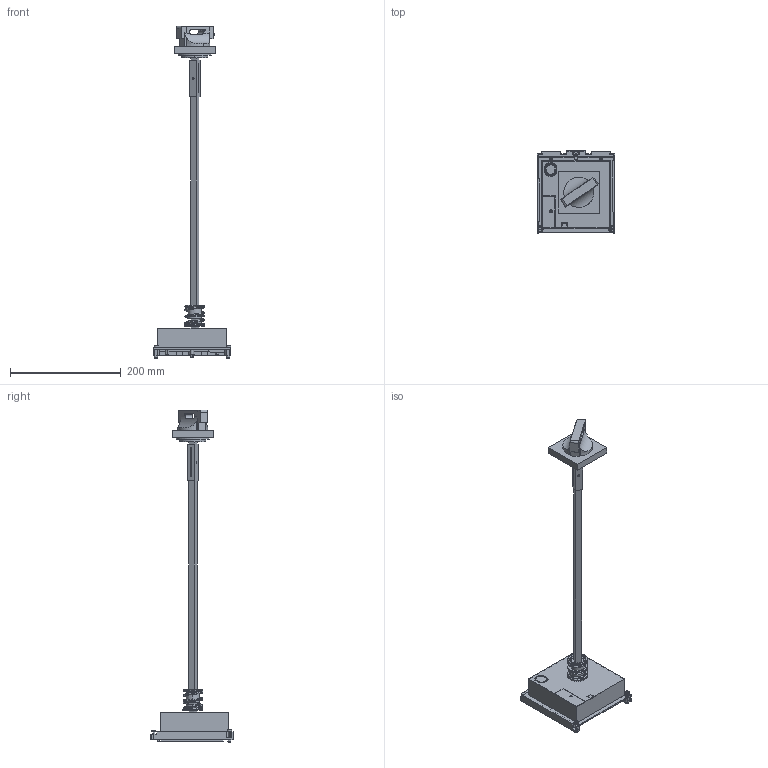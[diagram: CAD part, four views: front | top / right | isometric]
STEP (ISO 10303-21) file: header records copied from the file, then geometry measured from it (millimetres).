
FILE_DESCRIPTION((''),'2;1');
FILE_NAME('LV432603T-3D_ASM','2022-05-13T14:58:31',('SESA530330'),('Schneider-Electric'),'CREO PARAMETRIC BY PTC INC, 2019471','CREO PARAMETRIC BY PTC INC, 2019471','');
FILE_SCHEMA(('CONFIG_CONTROL_DESIGN'));
Length unit declared in the file: millimetre
Products named in the file (4): LV432603T-SIMPLIFIED; KNOB_1; 0099468700_005; LV432603T-3D_ASM
Assembly tree (3 placements, depth 2):
  LV432603T-3D_ASM
    LV432603T-SIMPLIFIED
    KNOB_1
    0099468700_005
Bounding box: 139.95 x 148.1 x 599.53 mm (x, y, z)
Volume: 281679.6 mm3; surface area: 154211.7 mm2
Topology: 4 solids, 4 shells, 372 faces, 970 edges, 643 vertices
Faces by surface type: plane 256, cylinder 92, bspline 13, extrusion 10, torus 1
Entity records: 14597 total; most frequent: CARTESIAN_POINT 5326, ORIENTED_EDGE 1940, DIRECTION 1808, EDGE_CURVE 970, VECTOR 706, LINE 696, VERTEX_POINT 643, AXIS2_PLACEMENT_3D 551
